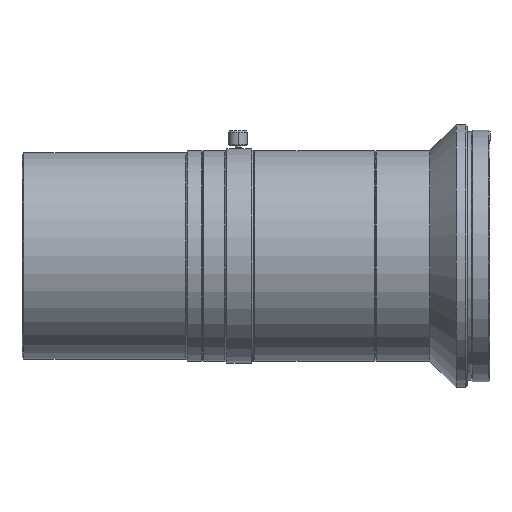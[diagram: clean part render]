
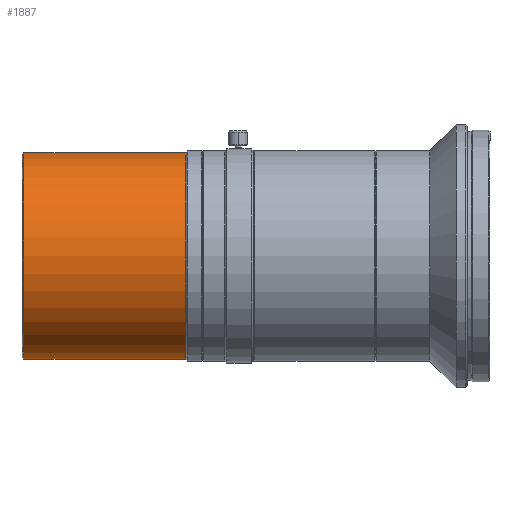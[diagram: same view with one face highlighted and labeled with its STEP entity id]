
A CAD part, top view. The second image highlights one B-rep face of the part: STEP entity #1887.
In plain terms, the highlighted cylindrical face has radius 27.5 mm (diameter 55 mm), a partial arc.
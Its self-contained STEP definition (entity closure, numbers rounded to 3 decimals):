
#118 = AXIS2_PLACEMENT_3D ( 'NONE', #670, #921, #908 ) ;
#190 = CIRCLE ( 'NONE', #1286, 27.5 ) ;
#376 = ORIENTED_EDGE ( 'NONE', *, *, #2399, .T. ) ;
#485 = ORIENTED_EDGE ( 'NONE', *, *, #2694, .F. ) ;
#518 = VECTOR ( 'NONE', #2567, 1000. ) ;
#602 = VERTEX_POINT ( 'NONE', #2420 ) ;
#670 = CARTESIAN_POINT ( 'NONE',  ( 203.416, 450.191, 0. ) ) ;
#696 = EDGE_CURVE ( 'NONE', #875, #602, #2667, .T. ) ;
#717 = LINE ( 'NONE', #1541, #518 ) ;
#722 = EDGE_CURVE ( 'NONE', #2806, #1365, #717, .T. ) ;
#752 = CARTESIAN_POINT ( 'NONE',  ( 203.416, 422.691, 0. ) ) ;
#779 = CIRCLE ( 'NONE', #118, 27.5 ) ;
#798 = DIRECTION ( 'NONE',  ( -1., 0., 0. ) ) ;
#875 = VERTEX_POINT ( 'NONE', #1897 ) ;
#908 = DIRECTION ( 'NONE',  ( 0., -1., 0. ) ) ;
#921 = DIRECTION ( 'NONE',  ( -1., 0., 0. ) ) ;
#992 = DIRECTION ( 'NONE',  ( -1., 0., 0. ) ) ;
#1135 = EDGE_LOOP ( 'NONE', ( #376, #3190, #485, #3246 ) ) ;
#1286 = AXIS2_PLACEMENT_3D ( 'NONE', #3031, #992, #2773 ) ;
#1365 = VERTEX_POINT ( 'NONE', #752 ) ;
#1424 = VECTOR ( 'NONE', #798, 1000. ) ;
#1541 = CARTESIAN_POINT ( 'NONE',  ( 206.346, 422.691, 0. ) ) ;
#1585 = AXIS2_PLACEMENT_3D ( 'NONE', #2343, #2102, #1879 ) ;
#1879 = DIRECTION ( 'NONE',  ( 0., -1., 0. ) ) ;
#1887 = ADVANCED_FACE ( 'NONE', ( #2817 ), #2338, .T. ) ;
#1897 = CARTESIAN_POINT ( 'NONE',  ( 246.416, 477.691, 0. ) ) ;
#2102 = DIRECTION ( 'NONE',  ( -1., 0., 0. ) ) ;
#2338 = CYLINDRICAL_SURFACE ( 'NONE', #1585, 27.5 ) ;
#2343 = CARTESIAN_POINT ( 'NONE',  ( 206.346, 450.191, 0. ) ) ;
#2399 = EDGE_CURVE ( 'NONE', #2806, #875, #190, .T. ) ;
#2420 = CARTESIAN_POINT ( 'NONE',  ( 203.416, 477.691, 0. ) ) ;
#2567 = DIRECTION ( 'NONE',  ( -1., 0., 0. ) ) ;
#2600 = CARTESIAN_POINT ( 'NONE',  ( 206.346, 477.691, 0. ) ) ;
#2667 = LINE ( 'NONE', #2600, #1424 ) ;
#2694 = EDGE_CURVE ( 'NONE', #1365, #602, #779, .T. ) ;
#2773 = DIRECTION ( 'NONE',  ( 0., -1., 0. ) ) ;
#2806 = VERTEX_POINT ( 'NONE', #3224 ) ;
#2817 = FACE_OUTER_BOUND ( 'NONE', #1135, .T. ) ;
#3031 = CARTESIAN_POINT ( 'NONE',  ( 246.416, 450.191, 0. ) ) ;
#3190 = ORIENTED_EDGE ( 'NONE', *, *, #696, .T. ) ;
#3224 = CARTESIAN_POINT ( 'NONE',  ( 246.416, 422.691, 0. ) ) ;
#3246 = ORIENTED_EDGE ( 'NONE', *, *, #722, .F. ) ;
